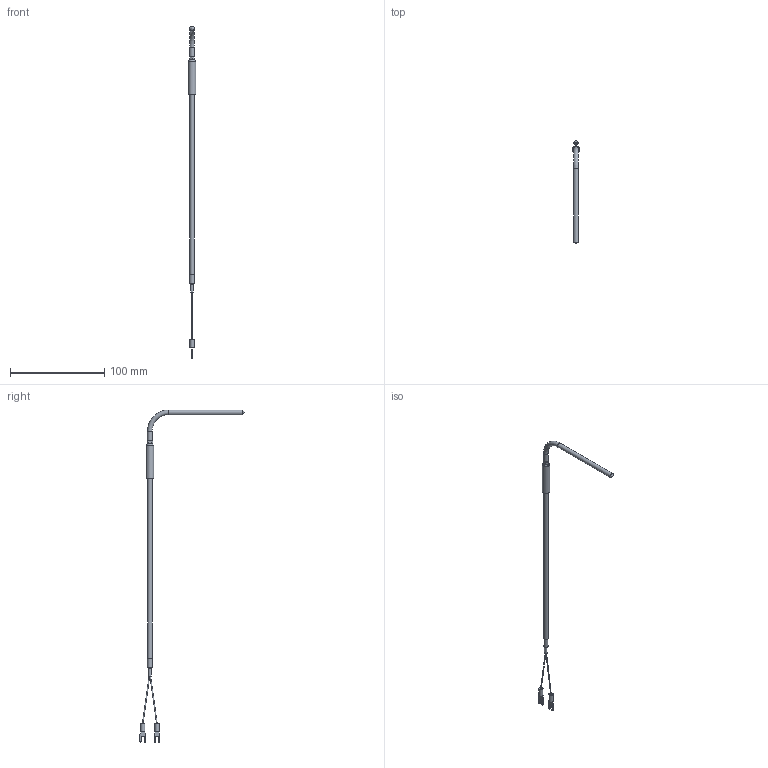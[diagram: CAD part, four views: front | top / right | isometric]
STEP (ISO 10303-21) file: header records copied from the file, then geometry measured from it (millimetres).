
FILE_DESCRIPTION (( 'STEP AP203' ), '1' );
FILE_NAME ('YIT111-4(0).STEP', '2025-03-19T02:19:38', ( '' ), ( '' ), 'SwSTEP 2.0', 'SolidWorks 2021', '' );
FILE_SCHEMA (( 'CONFIG_CONTROL_DESIGN' ));
Length unit declared in the file: millimetre
Products named in the file (1): YIT111-4(0)
Bounding box: 8 x 110.43 x 352.5 mm (x, y, z)
Volume: 8379.4 mm3; surface area: 6846.3 mm2
Topology: 1 solids, 1 shells, 70 faces, 168 edges, 109 vertices
Faces by surface type: plane 35, cylinder 22, bspline 8, cone 3, torus 2
Full cylindrical faces by diameter (mm): 3.16 x1, 4.5 x2, 4.8 x1, 5 x3, 8 x1
Entity records: 2185 total; most frequent: CARTESIAN_POINT 571, DIRECTION 312, ORIENTED_EDGE 296, EDGE_CURVE 148, AXIS2_PLACEMENT_3D 113, VERTEX_POINT 104, EDGE_LOOP 94, LINE 86
